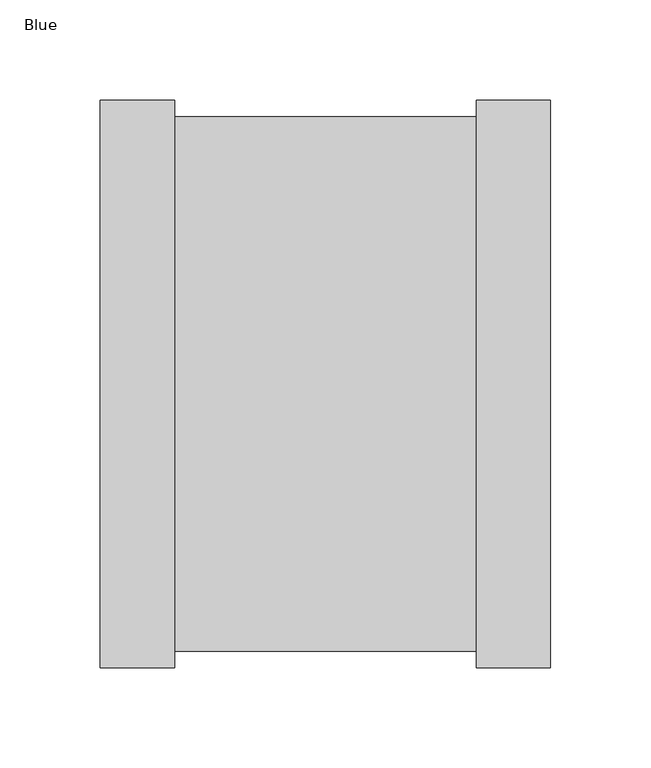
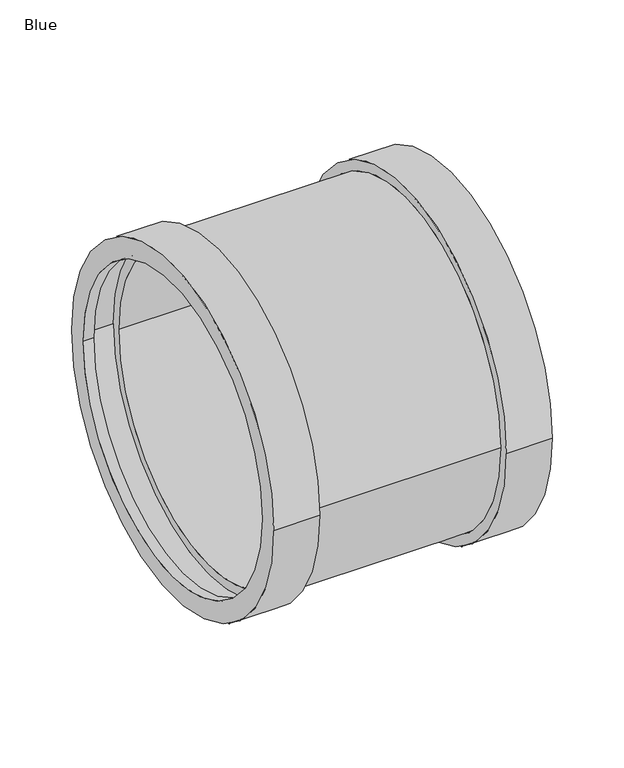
"""IFC4 building model written with IfcOpenShell, lengths in millimetres: pipe fitting geometry, AWADUKT PP Union USM : Blue."""

from ifc_helpers import new_model, si_unit, frame, origin, place, context, project, spatial, polyline, circle_curve, source, transform, mapped, element, save
from ifc_brep_helpers import plane_surface, cylinder_surface, revolved_surface, advanced_brep


def blue_eca1b971(model_context):
    return source(origin(), model_context, "Body", "AdvancedBrep", [
        advanced_brep(
        [(-83.525, 125.0, 0.0), (-83.525, -125.0, 0.0), (83.525, -125.0, 0.0), (83.525, 125.0, 0.0), (-104.15, 133.25, 0.0), (-104.15, -133.25, 0.0), (-83.525, -133.25, 0.0), (-83.525, 133.25, 0.0), (-112.4, 125.0, 0.0), (-112.4, -125.0, 0.0), (-104.15, -125.0, 0.0), (-104.15, 125.0, 0.0), (-75.275, 141.5, 0.0), (-75.275, -141.5, 0.0), (-112.4, -141.5, 0.0), (-112.4, 141.5, 0.0), (75.275, 133.25, 0.0), (75.275, -133.25, 0.0), (-75.275, -133.25, 0.0), (-75.275, 133.25, 0.0), (112.4, 141.5, 0.0), (112.4, -141.5, 0.0), (75.275, -141.5, 0.0), (75.275, 141.5, 0.0), (104.15, 125.0, 0.0), (104.15, -125.0, 0.0), (112.4, -125.0, 0.0), (112.4, 125.0, 0.0), (83.525, 133.25, 0.0), (83.525, -133.25, 0.0), (104.15, -133.25, 0.0), (104.15, 133.25, 0.0)],
        [
            (0, 1, circle_curve(frame((-83.525, 0.0, 0.0), z_axis=(-1.0, 0.0, 0.0), x_axis=(0.0, -1.0, 0.0)), 125.0)),
            (1, 2),
            (2, 3, circle_curve(frame((83.525, 0.0, 0.0), z_axis=(1.0, 0.0, 0.0), x_axis=(0.0, -1.0, 0.0)), 125.0)),
            (3, 0),
            (4, 5, circle_curve(frame((-104.15, 0.0, 0.0), z_axis=(-1.0, 0.0, 0.0), x_axis=(0.0, -1.0, 0.0)), 133.25)),
            (5, 6),
            (6, 7, circle_curve(frame((-83.525, 0.0, 0.0), z_axis=(1.0, 0.0, 0.0), x_axis=(0.0, -1.0, 0.0)), 133.25)),
            (7, 4),
            (8, 9, circle_curve(frame((-112.4, 0.0, 0.0), z_axis=(-1.0, 0.0, 0.0), x_axis=(0.0, -1.0, 0.0)), 125.0)),
            (9, 10),
            (10, 11, circle_curve(frame((-104.15, 0.0, 0.0), z_axis=(1.0, 0.0, 0.0), x_axis=(0.0, -1.0, 0.0)), 125.0)),
            (11, 8),
            (12, 13, circle_curve(frame((-75.275, 0.0, 0.0), z_axis=(-1.0, 0.0, 0.0), x_axis=(0.0, -1.0, 0.0)), 141.5)),
            (13, 14),
            (14, 15, circle_curve(frame((-112.4, 0.0, 0.0), z_axis=(1.0, 0.0, 0.0), x_axis=(0.0, -1.0, 0.0)), 141.5)),
            (15, 12),
            (16, 17, circle_curve(frame((75.275, 0.0, 0.0), z_axis=(-1.0, 0.0, 0.0), x_axis=(0.0, -1.0, 0.0)), 133.25)),
            (17, 18),
            (18, 19, circle_curve(frame((-75.275, 0.0, 0.0), z_axis=(1.0, 0.0, 0.0), x_axis=(0.0, -1.0, 0.0)), 133.25)),
            (19, 16),
            (20, 21, circle_curve(frame((112.4, 0.0, 0.0), z_axis=(-1.0, 0.0, 0.0), x_axis=(0.0, -1.0, 0.0)), 141.5)),
            (21, 22),
            (22, 23, circle_curve(frame((75.275, 0.0, 0.0), z_axis=(1.0, 0.0, 0.0), x_axis=(0.0, -1.0, 0.0)), 141.5)),
            (23, 20),
            (24, 25, circle_curve(frame((104.15, 0.0, 0.0), z_axis=(-1.0, 0.0, 0.0), x_axis=(0.0, -1.0, 0.0)), 125.0)),
            (25, 26),
            (26, 27, circle_curve(frame((112.4, 0.0, 0.0), z_axis=(1.0, 0.0, 0.0), x_axis=(0.0, -1.0, 0.0)), 125.0)),
            (27, 24),
            (28, 29, circle_curve(frame((83.525, 0.0, 0.0), z_axis=(-1.0, 0.0, 0.0), x_axis=(0.0, -1.0, 0.0)), 133.25)),
            (29, 30),
            (30, 31, circle_curve(frame((104.15, 0.0, 0.0), z_axis=(1.0, 0.0, 0.0), x_axis=(0.0, -1.0, 0.0)), 133.25)),
            (31, 28),
            (1, 0, circle_curve(frame((-83.525, 0.0, 0.0), z_axis=(-1.0, 0.0, 0.0), x_axis=(0.0, 1.0, 0.0)), 125.0)),
            (3, 2, circle_curve(frame((83.525, 0.0, 0.0), z_axis=(1.0, 0.0, 0.0), x_axis=(0.0, 1.0, 0.0)), 125.0)),
            (6, 7, circle_curve(frame((-83.525, 0.0, 0.0), z_axis=(-1.0, 0.0, 0.0), x_axis=(0.0, 1.0, 0.0)), 133.25)),
            (5, 4, circle_curve(frame((-104.15, 0.0, 0.0), z_axis=(-1.0, 0.0, 0.0), x_axis=(0.0, 1.0, 0.0)), 133.25)),
            (10, 11, circle_curve(frame((-104.15, 0.0, 0.0), z_axis=(-1.0, 0.0, 0.0), x_axis=(0.0, 1.0, 0.0)), 125.0)),
            (9, 8, circle_curve(frame((-112.4, 0.0, 0.0), z_axis=(-1.0, 0.0, 0.0), x_axis=(0.0, 1.0, 0.0)), 125.0)),
            (14, 15, circle_curve(frame((-112.4, 0.0, 0.0), z_axis=(-1.0, 0.0, 0.0), x_axis=(0.0, 1.0, 0.0)), 141.5)),
            (13, 12, circle_curve(frame((-75.275, 0.0, 0.0), z_axis=(-1.0, 0.0, 0.0), x_axis=(0.0, 1.0, 0.0)), 141.5)),
            (18, 19, circle_curve(frame((-75.275, 0.0, 0.0), z_axis=(-1.0, 0.0, 0.0), x_axis=(0.0, 1.0, 0.0)), 133.25)),
            (17, 16, circle_curve(frame((75.275, 0.0, 0.0), z_axis=(-1.0, 0.0, 0.0), x_axis=(0.0, 1.0, 0.0)), 133.25)),
            (22, 23, circle_curve(frame((75.275, 0.0, 0.0), z_axis=(-1.0, 0.0, 0.0), x_axis=(0.0, 1.0, 0.0)), 141.5)),
            (21, 20, circle_curve(frame((112.4, 0.0, 0.0), z_axis=(-1.0, 0.0, 0.0), x_axis=(0.0, 1.0, 0.0)), 141.5)),
            (26, 27, circle_curve(frame((112.4, 0.0, 0.0), z_axis=(-1.0, 0.0, 0.0), x_axis=(0.0, 1.0, 0.0)), 125.0)),
            (25, 24, circle_curve(frame((104.15, 0.0, 0.0), z_axis=(-1.0, 0.0, 0.0), x_axis=(0.0, 1.0, 0.0)), 125.0)),
            (30, 31, circle_curve(frame((104.15, 0.0, 0.0), z_axis=(-1.0, 0.0, 0.0), x_axis=(0.0, 1.0, 0.0)), 133.25)),
            (29, 28, circle_curve(frame((83.525, 0.0, 0.0), z_axis=(-1.0, 0.0, 0.0), x_axis=(0.0, 1.0, 0.0)), 133.25)),
        ],
        [
            revolved_surface(polyline([(83.525, -125.0, 0.0), (-83.525, -125.0, 0.0)]), (0.0, 0.0, 0.0), (1.0, 0.0, 0.0)),
            revolved_surface(polyline([(-83.525, -133.25, 0.0), (-104.15, -133.25, 0.0)]), (0.0, 0.0, 0.0), (1.0, 0.0, 0.0)),
            revolved_surface(polyline([(-104.15, -125.0, 0.0), (-112.4, -125.0, 0.0)]), (0.0, 0.0, 0.0), (1.0, 0.0, 0.0)),
            cylinder_surface(frame((0.0, 0.0, 0.0), z_axis=(1.0, 0.0, 0.0), x_axis=(0.0, -1.0, 0.0)), 141.5),
            cylinder_surface(frame((0.0, 0.0, 0.0), z_axis=(1.0, 0.0, 0.0), x_axis=(0.0, -1.0, 0.0)), 133.25),
            revolved_surface(polyline([(112.4, -125.0, 0.0), (104.15, -125.0, 0.0)]), (0.0, 0.0, 0.0), (1.0, 0.0, 0.0)),
            revolved_surface(polyline([(104.15, -133.25, 0.0), (83.525, -133.25, 0.0)]), (0.0, 0.0, 0.0), (1.0, 0.0, 0.0)),
            revolved_surface(polyline([(83.525, 125.0, 0.0), (-83.525, 125.0, 0.0)]), (0.0, 0.0, 0.0), (1.0, 0.0, 0.0)),
            plane_surface(frame((-83.525, 0.0, 0.0), z_axis=(-1.0, 0.0, 0.0), x_axis=(0.0, 1.0, 0.0))),
            revolved_surface(polyline([(-83.525, 133.25, 0.0), (-104.15, 133.25, 0.0)]), (0.0, 0.0, 0.0), (1.0, 0.0, 0.0)),
            plane_surface(frame((-104.15, 0.0, 0.0), z_axis=(1.0, 0.0, 0.0), x_axis=(0.0, 1.0, 0.0))),
            revolved_surface(polyline([(-104.15, 125.0, 0.0), (-112.4, 125.0, 0.0)]), (0.0, 0.0, 0.0), (1.0, 0.0, 0.0)),
            plane_surface(frame((-112.4, 0.0, 0.0), z_axis=(-1.0, 0.0, 0.0), x_axis=(0.0, 1.0, 0.0))),
            cylinder_surface(frame((0.0, 0.0, 0.0), z_axis=(1.0, 0.0, 0.0), x_axis=(0.0, 1.0, 0.0)), 141.5),
            plane_surface(frame((-75.275, 0.0, 0.0), z_axis=(1.0, 0.0, 0.0), x_axis=(0.0, 1.0, 0.0))),
            cylinder_surface(frame((0.0, 0.0, 0.0), z_axis=(1.0, 0.0, 0.0), x_axis=(0.0, 1.0, 0.0)), 133.25),
            plane_surface(frame((75.275, 0.0, 0.0), z_axis=(-1.0, 0.0, 0.0), x_axis=(0.0, 1.0, 0.0))),
            plane_surface(frame((112.4, 0.0, 0.0), z_axis=(1.0, 0.0, 0.0), x_axis=(0.0, 1.0, 0.0))),
            revolved_surface(polyline([(112.4, 125.0, 0.0), (104.15, 125.0, 0.0)]), (0.0, 0.0, 0.0), (1.0, 0.0, 0.0)),
            plane_surface(frame((104.15, 0.0, 0.0), z_axis=(-1.0, 0.0, 0.0), x_axis=(0.0, 1.0, 0.0))),
            revolved_surface(polyline([(104.15, 133.25, 0.0), (83.525, 133.25, 0.0)]), (0.0, 0.0, 0.0), (1.0, 0.0, 0.0)),
            plane_surface(frame((83.525, 0.0, 0.0), z_axis=(1.0, 0.0, 0.0), x_axis=(0.0, 1.0, 0.0))),
        ],
        [
            (0, [[1, 2, 3, 4]]),
            (1, [[5, 6, 7, 8]]),
            (2, [[9, 10, 11, 12]]),
            (3, [[13, 14, 15, 16]]),
            (4, [[17, 18, 19, 20]]),
            (3, [[21, 22, 23, 24]]),
            (5, [[25, 26, 27, 28]]),
            (6, [[29, 30, 31, 32]]),
            (7, [[33, -4, 34, -2]]),
            (8, [[35, -7], [-33, -1]]),
            (9, [[36, -8, -35, -6]]),
            (10, [[-36, -5], [37, -11]]),
            (11, [[38, -12, -37, -10]]),
            (12, [[39, -15], [-38, -9]]),
            (13, [[40, -16, -39, -14]]),
            (14, [[-40, -13], [41, -19]]),
            (15, [[42, -20, -41, -18]]),
            (16, [[43, -23], [-42, -17]]),
            (13, [[44, -24, -43, -22]]),
            (17, [[-44, -21], [45, -27]]),
            (18, [[46, -28, -45, -26]]),
            (19, [[47, -31], [-46, -25]]),
            (20, [[48, -32, -47, -30]]),
            (21, [[-48, -29], [-34, -3]]),
        ],
    ),
    ])


if __name__ == "__main__":
    model = new_model("IFC4")
    model_context = context("Model", 3, world=origin())
    ifc_project = project(units=[si_unit("LENGTHUNIT", "METRE", prefix="MILLI")], contexts=[model_context])
    site = spatial("IfcSite", under=ifc_project)
    building = spatial("IfcBuilding", under=site)
    placement = place(None, origin())
    blue_shape = blue_eca1b971(model_context)
    element("IfcPipeFitting", 1, ObjectType="AWADUKT PP Union USM : Blue", at=placement, inside=building, context=model_context, shape_type="MappedRepresentation", body=[
        mapped(blue_shape, transform((0.0, 0.0, 0.0), x_axis=(1.0, 0.0, 0.0), y_axis=(0.0, 1.0, 0.0), z_axis=(0.0, 0.0, 1.0))),
    ])
    save(model, "model.ifc")
